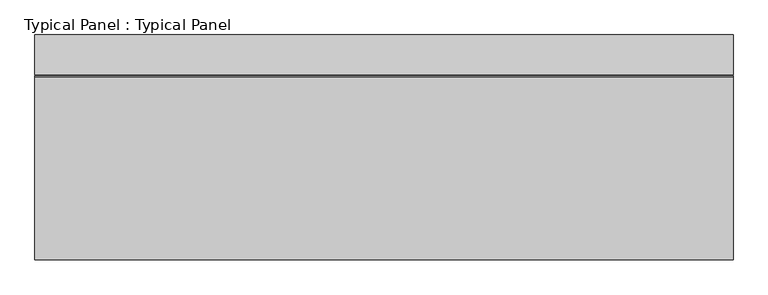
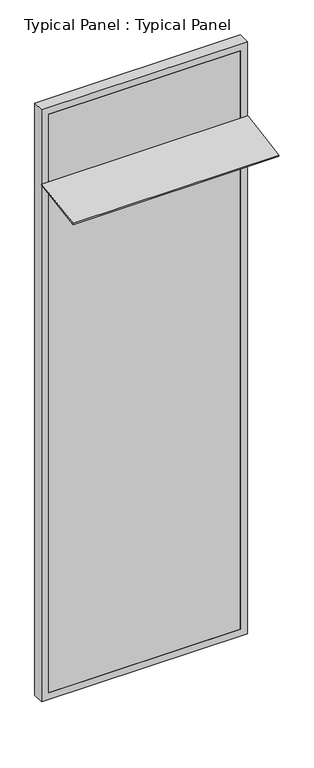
"""IFC4 building model written with IfcOpenShell, lengths in millimetres: plate geometry, Typical Panel : Typical Panel."""

import ifcopenshell
import ifcopenshell.guid

model = None  # the IFC model being written
_history = None  # IfcOwnerHistory: only IFC2X3 demands one
_inside = {}  # id of a spatial element -> (the spatial element, [elements in it])
_under = {}  # id of a project, library or spatial element -> (it, [spatial elements below it])
_declared = {}  # id of a project -> (the project, [libraries it declares])
_typed = {}  # id of a type object -> (the type object, [elements of that type])
_made_of = {}  # id of a material, layer set ... -> (it, [elements and type objects made of it])


def new_model(schema):
    """Start an empty IFC model of exactly this schema.

    Asked for "IFC4X3", IfcOpenShell would pick the latest addendum, in which some entities
    have other attributes; the version numbers below select the first issue.
    IFC2X3 requires an IfcOwnerHistory on every rooted entity: one is made here for all.
    """
    global model, _history
    if schema == "IFC4X3":
        model = ifcopenshell.file(schema_version=(4, 3, 0, 0))
    else:
        model = ifcopenshell.file(schema=schema)
    _inside.clear()
    _under.clear()
    _declared.clear()
    _typed.clear()
    _made_of.clear()
    _history = None
    if model.schema == "IFC2X3":
        org = make("IfcOrganization", Name="unknown")
        user = make(
            "IfcPersonAndOrganization",
            ThePerson=make("IfcPerson", FamilyName="unknown"),
            TheOrganization=org,
        )
        app = make(
            "IfcApplication",
            ApplicationDeveloper=org,
            Version="unknown",
            ApplicationFullName="unknown",
            ApplicationIdentifier="unknown",
        )
        _history = make(
            "IfcOwnerHistory",
            OwningUser=user,
            OwningApplication=app,
            ChangeAction="ADDED",
            CreationDate=0,
        )
    return model


def make(cls, **values):
    """One entity of the class cls with the attributes given. An attribute that is None is left unset."""
    return model.create_entity(
        cls, **{name: value for name, value in values.items() if value is not None}
    )


def rooted(cls, **values):
    """An entity with a GlobalId (a new one), such as an element, a storey or a relation."""
    return make(cls, GlobalId=ifcopenshell.guid.new(), OwnerHistory=_history, **values)


def si_unit(unit_type, name, prefix=None):
    """IfcSIUnit, for example si_unit("LENGTHUNIT", "METRE", prefix="MILLI")."""
    return make("IfcSIUnit", UnitType=unit_type, Prefix=prefix, Name=name)


def assignment(units):
    """IfcUnitAssignment: the units of a project."""
    return None if units is None else make("IfcUnitAssignment", Units=units)


def point(xyz):
    """IfcCartesianPoint."""
    return None if xyz is None else make("IfcCartesianPoint", Coordinates=xyz)


def direction(xyz):
    """IfcDirection."""
    return None if xyz is None else make("IfcDirection", DirectionRatios=xyz)


def frame(location, z_axis=None, x_axis=None):
    """IfcAxis2Placement3D, a coordinate frame: its origin and axes. An axis left out is left unset."""
    return make(
        "IfcAxis2Placement3D",
        Location=point(location),
        Axis=direction(z_axis),
        RefDirection=direction(x_axis),
    )


def origin():
    """The frame at (0, 0, 0) with its axes left unset."""
    return frame((0.0, 0.0, 0.0))


def place(relative_to, where):
    """IfcLocalPlacement: puts the frame where relative to a parent placement (None: the world)."""
    return make(
        "IfcLocalPlacement", PlacementRelTo=relative_to, RelativePlacement=where
    )


def context(
    kind, dimensions, precision=None, world=None, true_north=None, identifier=None
):
    """IfcGeometricRepresentationContext, for example the 3D "Model" context."""
    return make(
        "IfcGeometricRepresentationContext",
        ContextIdentifier=identifier,
        ContextType=kind,
        CoordinateSpaceDimension=dimensions,
        Precision=precision,
        WorldCoordinateSystem=world,
        TrueNorth=true_north,
    )


def project(units=None, contexts=None):
    """IfcProject with its units and contexts."""
    return rooted(
        "IfcProject",
        Name="project",
        RepresentationContexts=contexts,
        UnitsInContext=assignment(units),
    )


def spatial(cls, under=None, at=None, **own):
    """A site, building, storey or space (cls), placed at a placement, below another one or the project."""
    s = rooted(cls, ObjectPlacement=at, **own)
    if under is not None:
        _under.setdefault(under.id(), (under, []))[1].append(s)
    return s


def polyline(points):
    """IfcPolyline through the points."""
    return make("IfcPolyline", Points=[point(p) for p in points])


def outline(outer, holes=None, kind="AREA"):
    """IfcArbitraryClosedProfileDef: a profile drawn as a closed curve; with holes, ...WithVoids."""
    if holes is None:
        return make("IfcArbitraryClosedProfileDef", ProfileType=kind, OuterCurve=outer)
    return make(
        "IfcArbitraryProfileDefWithVoids",
        ProfileType=kind,
        OuterCurve=outer,
        InnerCurves=holes,
    )


def extrude(swept, where, along, depth):
    """IfcExtrudedAreaSolid: the profile swept, set in the frame where, extruded along a direction by depth."""
    return make(
        "IfcExtrudedAreaSolid",
        SweptArea=swept,
        Position=where,
        ExtrudedDirection=direction(along),
        Depth=depth,
    )


def shape(context_of_items, identifier, shape_type, items):
    """IfcShapeRepresentation: the items that make up one representation, for example the "Body"."""
    return make(
        "IfcShapeRepresentation",
        ContextOfItems=context_of_items,
        RepresentationIdentifier=identifier,
        RepresentationType=shape_type,
        Items=items,
    )


def source(mapping_origin, context_of_items, identifier, shape_type, items):
    """IfcRepresentationMap: a shape defined once, which mapped items show again and again."""
    return make(
        "IfcRepresentationMap",
        MappingOrigin=mapping_origin,
        MappedRepresentation=shape(context_of_items, identifier, shape_type, items),
    )


def transform(
    local_origin,
    x_axis=None,
    y_axis=None,
    z_axis=None,
    scale=None,
    scale2=None,
    scale3=None,
    uniform=True,
):
    """IfcCartesianTransformationOperator3D, or its non-uniform kind. x_axis, y_axis, z_axis: its Axis1, 2, 3."""
    if uniform:
        return make(
            "IfcCartesianTransformationOperator3D",
            Axis1=direction(x_axis),
            Axis2=direction(y_axis),
            LocalOrigin=point(local_origin),
            Scale=scale,
            Axis3=direction(z_axis),
        )
    return make(
        "IfcCartesianTransformationOperator3DnonUniform",
        Axis1=direction(x_axis),
        Axis2=direction(y_axis),
        LocalOrigin=point(local_origin),
        Scale=scale,
        Axis3=direction(z_axis),
        Scale2=scale2,
        Scale3=scale3,
    )


def mapped(mapping_source, mapping_target):
    """IfcMappedItem: shows the shape of a source again, moved by a transform."""
    return make(
        "IfcMappedItem", MappingSource=mapping_source, MappingTarget=mapping_target
    )


def made_of(thing, what):
    """Note that an element or type object is made of a material, layer set ...; save() writes the relation."""
    if what is not None:
        _made_of.setdefault(what.id(), (what, []))[1].append(thing)
    return thing


def element(
    cls,
    number,
    at=None,
    inside=None,
    cuts=None,
    type_object=None,
    material=None,
    context=None,
    identifier="Body",
    shape_type=None,
    held_by="IfcProductDefinitionShape",
    body=None,
    shapes=None,
    **own,
):
    """One element of the class cls, such as IfcWall. Its Tag is "e" and its number.

    at: its placement. inside: the storey or other place that contains it. cuts: it is an
    opening in that element (IfcRelVoidsElement). A single representation is given by context,
    identifier, shape_type and body (its items); several are given by shapes. held_by: the class
    of the entity that holds the representations. save() writes the other relations.
    """
    e = rooted(cls, Tag="e%d" % number, ObjectPlacement=at, **own)
    if body is not None:
        shapes = [shape(context, identifier, shape_type, body)]
    if shapes is not None:
        e.Representation = make(held_by, Representations=shapes)
    if inside is not None:
        _inside.setdefault(inside.id(), (inside, []))[1].append(e)
    if cuts is not None:
        rooted(
            "IfcRelVoidsElement", RelatingBuildingElement=cuts, RelatedOpeningElement=e
        )
    if type_object is not None:
        _typed.setdefault(type_object.id(), (type_object, []))[1].append(e)
    return made_of(e, material)


def aggregate(whole, parts):
    """IfcRelAggregates: a whole, such as a stair, and the parts it consists of."""
    return rooted("IfcRelAggregates", RelatingObject=whole, RelatedObjects=parts)


def save(model, path):
    """Write the relations noted so far, then the file.

    IfcRelAggregates (storeys below a building ...), IfcRelContainedInSpatialStructure (elements
    in a storey), IfcRelDefinesByType, IfcRelAssociatesMaterial and IfcRelDeclares: one each for
    every whole, place, type object, material and project.
    """
    for whole, parts in _under.values():
        aggregate(whole, parts)
    for where, things in _inside.values():
        rooted(
            "IfcRelContainedInSpatialStructure",
            RelatedElements=things,
            RelatingStructure=where,
        )
    for kind, things in _typed.values():
        rooted("IfcRelDefinesByType", RelatedObjects=things, RelatingType=kind)
    for what, things in _made_of.values():
        rooted("IfcRelAssociatesMaterial", RelatedObjects=things, RelatingMaterial=what)
    for by, libraries in _declared.values():
        rooted("IfcRelDeclares", RelatingContext=by, RelatedDefinitions=libraries)
    model.write(path)


def typical_panel_typical_panel_452a3de3(model_context):
    return source(origin(), model_context, "Body", "SweptSolid", [
        extrude(outline(polyline([(0.0, -350.0000001), (0.0, 0.0), (1317.1916898, 0.0), (1317.1916898, -350.0000001), (0.0, -350.0000001)])), frame((658.5958449, -349.1265746, 3435.3710538), z_axis=(0.0, -0.1564344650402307, 0.9876883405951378), x_axis=(-1.0, 0.0, 0.0)), (0.0, 0.0, 1.0), 10.0),
        extrude(outline(polyline([(0.0, -658.5958449), (0.0, 658.5958449), (4000.0, 658.5958449), (4000.0, -658.5958449), (0.0, -658.5958449)]), holes=[polyline([(45.0, 613.5958449), (45.0, -613.5958449), (3955.0, -613.5958449), (3955.0, 613.5958449), (45.0, 613.5958449)])]), frame((0.0, -1.5797986, 0.0), z_axis=(0.0, 1.0, 0.0), x_axis=(0.0, 0.0, 1.0)), (0.0, 0.0, 1.0), 75.0),
        extrude(outline(polyline([(613.5958449, -1.5797986), (-613.5958449, -1.5797986), (-613.5958449, 13.4202014), (613.5958449, 13.4202014), (613.5958449, -1.5797986)])), frame((0.0, 0.0, 45.0), z_axis=(0.0, 0.0, 1.0), x_axis=(1.0, 0.0, 0.0)), (0.0, 0.0, 1.0), 3910.0),
    ])


if __name__ == "__main__":
    model = new_model("IFC4")
    model_context = context("Model", 3, world=origin())
    ifc_project = project(units=[si_unit("LENGTHUNIT", "METRE", prefix="MILLI")], contexts=[model_context])
    site = spatial("IfcSite", under=ifc_project)
    building = spatial("IfcBuilding", under=site)
    placement = place(None, origin())
    typical_panel_typical_panel_shape = typical_panel_typical_panel_452a3de3(model_context)
    element("IfcPlate", 1, ObjectType="Typical Panel : Typical Panel", at=placement, inside=building, context=model_context, shape_type="MappedRepresentation", body=[
        mapped(typical_panel_typical_panel_shape, transform((0.0, 0.0, 0.0), x_axis=(1.0, 0.0, 0.0), y_axis=(0.0, 1.0, 0.0), z_axis=(0.0, 0.0, 1.0))),
    ])
    save(model, "model.ifc")
